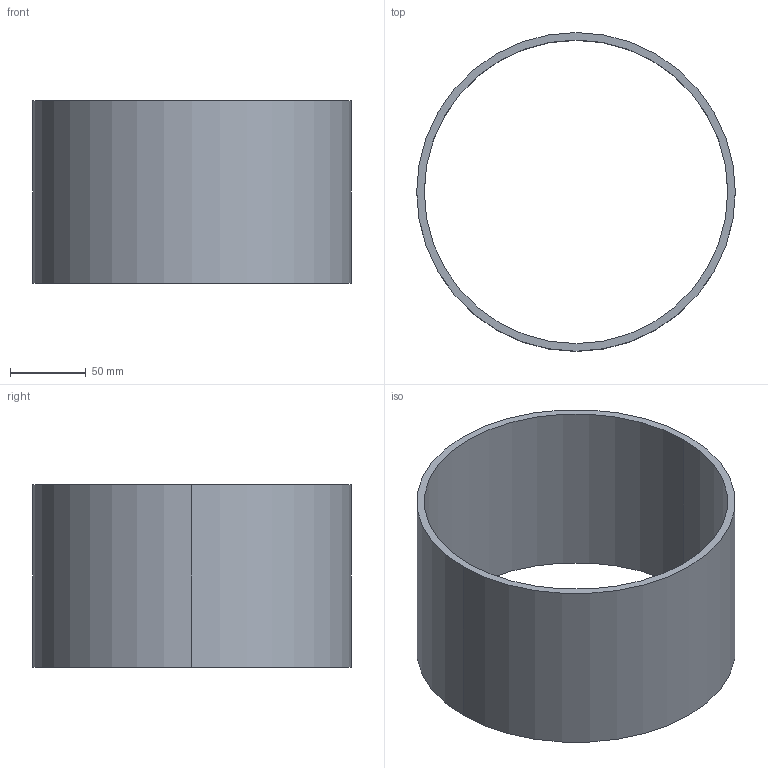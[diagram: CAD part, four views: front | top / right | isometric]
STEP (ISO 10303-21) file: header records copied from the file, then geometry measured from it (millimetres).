
FILE_DESCRIPTION(('CATIA V5 STEP Exchange'),'2;1');
FILE_NAME('C:\_Andres\UNIVERSIDAD\IQS\ASIGNATURAS\DAO\EXF\EXF-15161c\1original\Elvira_Arias_Ej07-tabla_v5.stp','2016-03-04T21:16:33+00:00',('none'),('none'),'CATIA Version 5 Release 20 SP 1 (IN-10)','CATIA V5 STEP AP203','none');
FILE_SCHEMA(('CONFIG_CONTROL_DESIGN'));
Length unit declared in the file: millimetre
Products named in the file (1): Elvira_Arias_Ej07-tabla_v5
Bounding box: 210 x 210 x 120 mm (x, y, z)
Volume: 386415.9 mm3; surface area: 161006.6 mm2
Topology: 1 solids, 1 shells, 6 faces, 13 edges, 10 vertices
Faces by surface type: cylinder 4, plane 2
Entity records: 208 total; most frequent: CARTESIAN_POINT 29, ORIENTED_EDGE 24, DIRECTION 23, AXIS2_PLACEMENT_3D 14, EDGE_CURVE 12, CIRCLE 8, EDGE_LOOP 8, VERTEX_POINT 8
